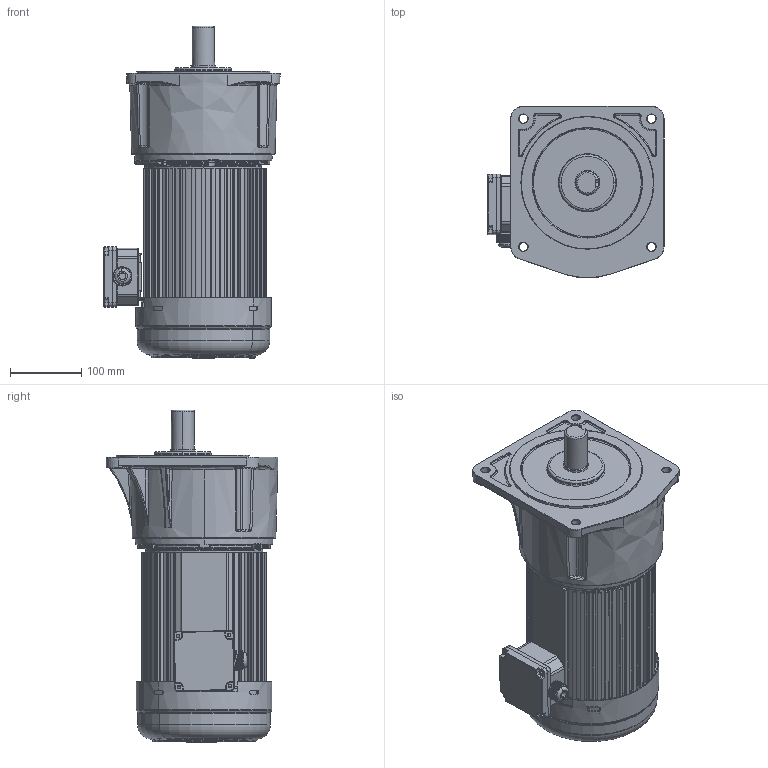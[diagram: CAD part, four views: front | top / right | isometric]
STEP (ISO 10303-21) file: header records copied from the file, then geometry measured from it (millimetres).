
FILE_DESCRIPTION (( 'STEP AP203' ), '1' );
FILE_NAME ('2200W饜4#蕾宒.STEP', '2020-04-13T11:14:17', ( 'china' ), ( 'china' ), 'SwSTEP 2.0', 'SolidWorks 2019', '' );
FILE_SCHEMA (( 'CONFIG_CONTROL_DESIGN' ));
Length unit declared in the file: millimetre
Products named in the file (9): 瑞欶; 2200W饜4#蕾宒; 蜊輛綴諉盄碟釱3; 諉芛; 蜊輛綴諉盄碟裔3; 2200W儂褲; 4-xg3-0926; 1500W綴傷裔; 4#蕾宒眊极
Assembly tree (8 placements, depth 2):
  2200W饜4#蕾宒
    1500W綴傷裔
    瑞欶
    蜊輛綴諉盄碟釱3
    諉芛
    蜊輛綴諉盄碟裔3
    2200W儂褲
    4-xg3-0926
    4#蕾宒眊极
Bounding box: 247.98 x 241.97 x 467.48 mm (x, y, z)
Volume: 5018357.6 mm3; surface area: 958532.3 mm2
Topology: 9 solids, 10 shells, 4121 faces, 10663 edges, 6495 vertices
Faces by surface type: plane 1326, cylinder 1073, bspline 967, torus 408, cone 297, sphere 50
Entity records: 264233 total; most frequent: CARTESIAN_POINT 171135, ORIENTED_EDGE 21009, DIRECTION 16660, EDGE_CURVE 10506, VERTEX_POINT 6495, AXIS2_PLACEMENT_3D 6119, EDGE_LOOP 4580, VECTOR 4422
